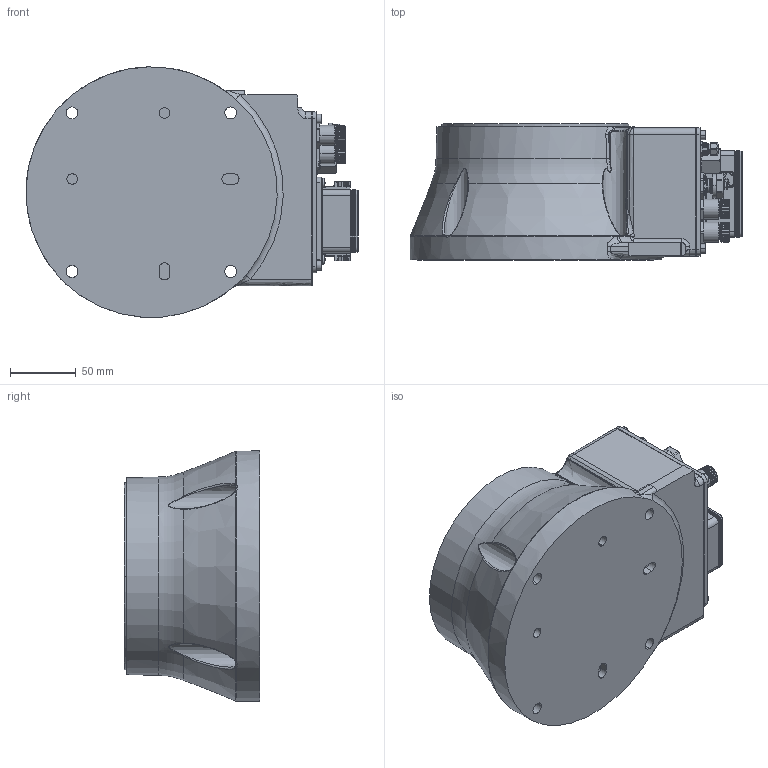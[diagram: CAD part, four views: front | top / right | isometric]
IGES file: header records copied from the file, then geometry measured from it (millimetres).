
Start section:  PTC IGES file: base_view_yr-n1-06vxc12-a00.igs
Global section: file name: base_view_yr-n1-06vxc12-a00.igs; native system: Creo Parametric by PTC Inc.; preprocessor: 2021072; author: yoizumi; organization: Unknown; date: 20250214.091126; units: millimetre
Bounding box: 251.61 x 103 x 189.69 mm (x, y, z)
Volume: 2943655.9 mm3; surface area: 153148.4 mm2
Topology: 3 solids, 11 shells, 1648 faces, 4224 edges, 2634 vertices
Faces by surface type: revolution 974, bspline 674
